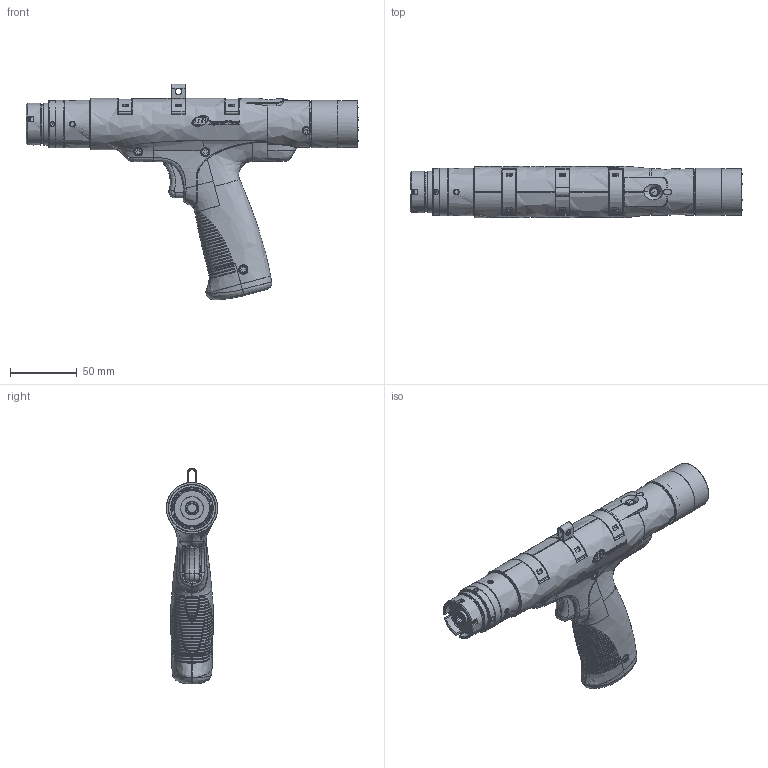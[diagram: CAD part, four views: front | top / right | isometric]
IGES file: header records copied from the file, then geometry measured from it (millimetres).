
Global section: file name: G:\Eng_Shared\PF\1. CAD DATA\DATA\QE SERIES\QE2 SERIES\QE2_3D\Power Unit, Pistol\16610404_A.igs; native system: NX V4.0; preprocessor: UGS NX IGES V4.0; date: 20090611.141908; units: millimetre
Bounding box: 248.7 x 38.44 x 161.61 mm (x, y, z)
Surface area: 59092.4 mm2 (no closed solid volume)
Topology: 0 solids, 0 shells, 1692 faces, 11333 edges, 11127 vertices
Faces by surface type: bspline 1642, offset 50
